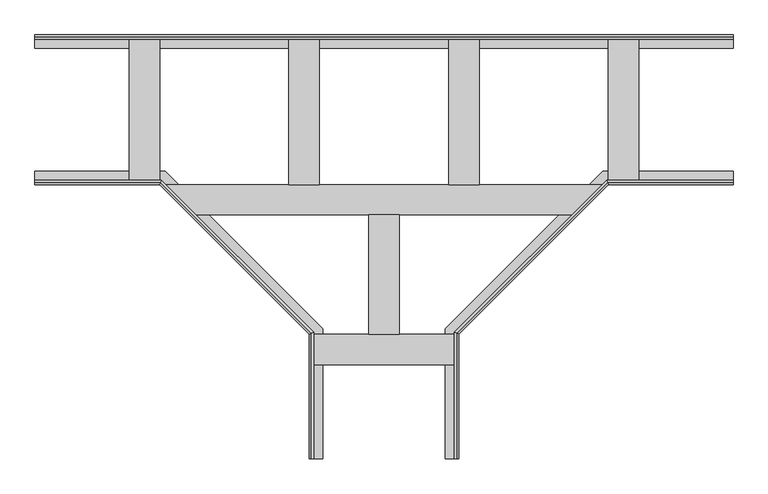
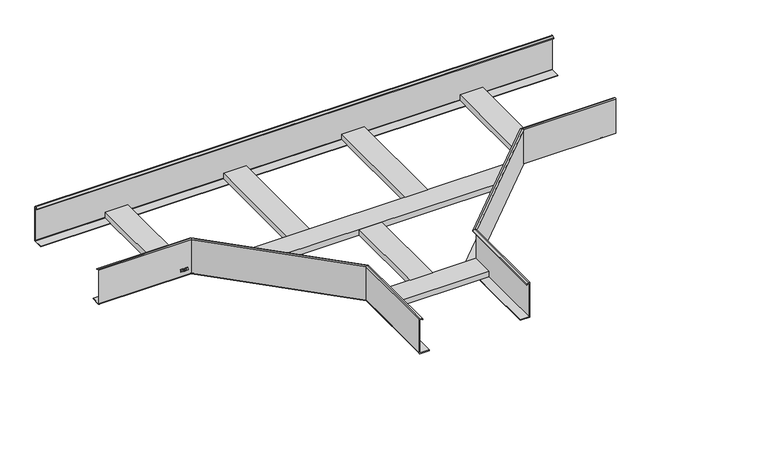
"""IFC4 building model written with IfcOpenShell, lengths in millimetres: cable carrier fitting geometry, КМ Профиль L Т-отвод «Быстрый монтаж» : Т-отвод «Быстрый монтаж»."""

from ifc_helpers import new_model, si_unit, point, frame, frame_2d, origin, place, context, project, spatial, polyline, circle_curve, ellipse_curve, trimmed, segment, composite_curve, outline, extrude, source, transform, mapped, element, save
from ifc_brep_helpers import plane_surface, cylinder_surface, revolved_surface, advanced_brep


def cable_carrier_fitting_1c77c83f(model_context):
    return source(origin(), model_context, "Body", "SolidModel", [
        extrude(outline(polyline([(-26.986157, -479.2388781), (-34.737421, -479.2388781), (-34.737421, -475.6630512), (-31.5720802, -475.6630512), (-34.737421, -473.9588467), (-34.737421, -470.0604353), (-31.194034, -471.9277444), (-30.5086619, -474.1694955), (-26.986157, -471.703011), (-26.986157, -473.8289757), (-30.564509, -475.7316192), (-26.986157, -475.7316192), (-26.986157, -479.2388781)])), frame((0.0, -150.8, 0.0), z_axis=(0.0, 1.0, 0.0), x_axis=(0.0, 0.0, 1.0)), (0.0, 0.0, 1.0), 0.8),
        extrude(outline(polyline([(-34.737421, -467.9962759), (-30.0696135, -467.6126012), (-34.7434681, -466.2045824), (-34.7434681, -464.7300717), (-30.0541919, -463.2500032), (-34.7429915, -462.7725105), (-34.7429915, -458.8700699), (-26.9623682, -460.0615674), (-26.9623682, -463.2555223), (-30.0390232, -464.2768297), (-26.9647569, -465.0433304), (-26.9647569, -468.0740589), (-34.737421, -469.8943395), (-34.737421, -467.9962759)])), frame((0.0, -150.8, 0.0), z_axis=(0.0, 1.0, 0.0), x_axis=(0.0, 0.0, 1.0)), (0.0, 0.0, 1.0), 0.8),
        extrude(outline(polyline([(-450.0, -147.0), (-511.0, -147.0), (-511.0, 147.0), (-450.0, 147.0), (-450.0, -147.0)])), frame((0.0, 0.0, -48.5), z_axis=(0.0, 0.0, 1.0), x_axis=(1.0, 0.0, 0.0)), (0.0, 0.0, 1.0), 16.0),
        extrude(outline(polyline([(511.0, -147.0), (450.0, -147.0), (450.0, 147.0), (511.0, 147.0), (511.0, -147.0)])), frame((0.0, 0.0, -48.5), z_axis=(0.0, 0.0, 1.0), x_axis=(1.0, 0.0, 0.0)), (0.0, 0.0, 1.0), 16.0),
        extrude(outline(polyline([(-129.6666667, 147.0), (-129.6666667, -150.0), (-190.6666667, -150.0), (-190.6666667, 147.0), (-129.6666667, 147.0)])), frame((0.0, 0.0, -48.5), z_axis=(0.0, 0.0, 1.0), x_axis=(1.0, 0.0, 0.0)), (0.0, 0.0, 1.0), 16.0),
        extrude(outline(polyline([(129.6666667, -150.0), (129.6666667, 147.0), (190.6666667, 147.0), (190.6666667, -150.0), (129.6666667, -150.0)])), frame((0.0, 0.0, -48.5), z_axis=(0.0, 0.0, 1.0), x_axis=(1.0, 0.0, 0.0)), (0.0, 0.0, 1.0), 16.0),
        extrude(outline(polyline([(30.5, -211.0), (30.5, -450.0), (-30.5, -450.0), (-30.5, -211.0), (30.5, -211.0)])), frame((0.0, 0.0, -48.5), z_axis=(0.0, 0.0, 1.0), x_axis=(1.0, 0.0, 0.0)), (0.0, 0.0, 1.0), 16.0),
        extrude(outline(polyline([(-147.0, -450.0), (147.0, -450.0), (147.0, -511.0), (-147.0, -511.0), (-147.0, -450.0)])), frame((0.0, 0.0, -48.5), z_axis=(0.0, 0.0, 1.0), x_axis=(1.0, 0.0, 0.0)), (0.0, 0.0, 1.0), 16.0),
        extrude(outline(polyline([(381.9289322, -211.0), (-381.9289322, -211.0), (-442.9289322, -150.0), (442.9289322, -150.0), (381.9289322, -211.0)])), frame((0.0, 0.0, -48.5), z_axis=(0.0, 0.0, 1.0), x_axis=(1.0, 0.0, 0.0)), (0.0, 0.0, 1.0), 16.0),
        extrude(outline(composite_curve([segment(trimmed(circle_curve(frame_2d((147.5, -47.5)), 1.0), [point((147.5, -48.5))], [point((148.5, -47.5))], True, "CARTESIAN"), True, "CONTINUOUS"), segment(polyline([(148.5, -47.5), (148.5, 47.3007162)]), True, "CONTINUOUS"), segment(trimmed(circle_curve(frame_2d((147.5, 47.3007162)), 1.0), [point((148.5, 47.3007162))], [point((147.0305284, 48.1836637))], True, "CARTESIAN"), True, "CONTINUOUS"), segment(polyline([(147.0305284, 48.1836637), (141.0, 44.9771749), (141.0, 46.67603), (146.7671626, 49.7424847)]), True, "CONTINUOUS"), segment(trimmed(circle_curve(frame_2d((147.8, 47.8)), 2.2), [point((146.7671626, 49.7424847))], [point((150.0, 47.8))], False, "CARTESIAN"), True, "CONTINUOUS"), segment(polyline([(150.0, 47.8), (150.0, -47.8)]), True, "CONTINUOUS"), segment(trimmed(circle_curve(frame_2d((147.8, -47.8)), 2.2), [point((150.0, -47.8))], [point((147.8, -50.0))], False, "CARTESIAN"), True, "CONTINUOUS"), segment(polyline([(147.8, -50.0), (123.0, -50.0), (123.0, -48.5), (147.5, -48.5)]), True, "CONTINUOUS")], self_intersect=False)), frame((-700.0, 0.0, 0.0), z_axis=(1.0, 0.0, 0.0), x_axis=(0.0, 1.0, 0.0)), (0.0, 0.0, 1.0), 1400.0),
        advanced_brep(
        [(123.0, -700.0, -50.0), (150.0, -700.0, -50.0), (150.0, -700.0, 47.8), (146.7671626, -700.0, 49.7424847), (141.0, -700.0, 46.67603), (141.0, -700.0, 44.9771749), (147.0305284, -700.0, 48.1836637), (148.5, -700.0, 47.3007162), (148.5, -700.0, -48.5), (123.0, -700.0, -48.5), (123.0, -438.8162338, -50.0), (438.8162338, -123.0, -50.0), (700.0, -123.0, -50.0), (700.0, -150.0, -50.0), (450.0, -150.0, -50.0), (150.0, -450.0, -50.0), (150.0, -450.0, 47.8), (146.7671626, -448.6609149, 49.7424847), (141.0, -446.2720779, 46.67603), (141.0, -446.2720779, 44.9771749), (147.0305284, -448.7700046, 48.1836637), (148.5, -449.3786797, 47.3007162), (148.5, -449.3786797, -48.5), (449.3786797, -148.5, -48.5), (700.0, -148.5, -48.5), (700.0, -123.0, -48.5), (438.8162338, -123.0, -48.5), (123.0, -438.8162338, -48.5), (450.0, -150.0, 47.8), (448.6609149, -146.7671626, 49.7424847), (446.2720779, -141.0, 46.67603), (446.2720779, -141.0, 44.9771749), (448.7700046, -147.0305284, 48.1836637), (449.3786797, -148.5, 47.3007162), (700.0, -148.5, 47.3007162), (700.0, -147.0305284, 48.1836637), (700.0, -141.0, 44.9771749), (700.0, -141.0, 46.67603), (700.0, -146.7671626, 49.7424847), (700.0, -150.0, 47.8)],
        [
            (0, 1),
            (1, 2),
            (2, 3, circle_curve(frame((147.8, -700.0, 47.8), z_axis=(0.0, -1.0, 0.0), x_axis=(-1.0, 0.0, 0.0)), 2.2)),
            (3, 4),
            (4, 5),
            (5, 6),
            (6, 7, circle_curve(frame((147.5, -700.0, 47.3007162), z_axis=(0.0, 1.0, 0.0), x_axis=(-1.0, 0.0, 0.0)), 1.0)),
            (7, 8),
            (8, 9),
            (9, 0),
            (0, 10),
            (10, 11),
            (11, 12),
            (12, 13),
            (13, 14),
            (14, 15),
            (15, 1),
            (15, 16),
            (16, 2),
            (16, 17, ellipse_curve(frame((147.8, -449.0887302, 47.8), z_axis=(-0.3826834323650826, -0.9238795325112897, 0.0), x_axis=(0.9238795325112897, -0.3826834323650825, 0.0)), 2.3812628, 2.2)),
            (17, 3),
            (17, 18),
            (18, 4),
            (18, 19),
            (19, 5),
            (19, 20),
            (20, 6),
            (20, 21, ellipse_curve(frame((147.5, -448.9644661, 47.3007162), z_axis=(0.3826834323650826, 0.9238795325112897, 0.0), x_axis=(-0.9238795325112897, 0.3826834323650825, 0.0)), 1.0823922, 1.0)),
            (21, 7),
            (21, 22),
            (22, 8),
            (22, 23),
            (23, 24),
            (24, 25),
            (25, 26),
            (26, 27),
            (27, 9),
            (27, 10),
            (14, 28),
            (28, 16),
            (28, 29, ellipse_curve(frame((449.0887302, -147.8, 47.8), z_axis=(-0.923879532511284, -0.382683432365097, 0.0), x_axis=(0.38268343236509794, -0.9238795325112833, 0.0)), 2.3812628, 2.2)),
            (29, 17),
            (29, 30),
            (30, 18),
            (30, 31),
            (31, 19),
            (31, 32),
            (32, 20),
            (32, 33, ellipse_curve(frame((448.9644661, -147.5, 47.3007162), z_axis=(0.923879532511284, 0.382683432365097, 0.0), x_axis=(-0.38268343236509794, 0.9238795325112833, 0.0)), 1.0823922, 1.0)),
            (33, 21),
            (33, 23),
            (26, 11),
            (12, 25),
            (24, 34),
            (34, 35, circle_curve(frame((700.0, -147.5, 47.3007162), z_axis=(-1.0, 0.0, 0.0), x_axis=(0.0, 1.0, 0.0)), 1.0)),
            (35, 36),
            (36, 37),
            (37, 38),
            (38, 39, circle_curve(frame((700.0, -147.8, 47.8), z_axis=(1.0, 0.0, 0.0), x_axis=(0.0, 1.0, 0.0)), 2.2)),
            (39, 13),
            (39, 28),
            (38, 29),
            (37, 30),
            (36, 31),
            (35, 32),
            (34, 33),
        ],
        [
            plane_surface(frame((150.0, -700.0, 50.0), z_axis=(0.0, -1.0, 0.0), x_axis=(0.0, 0.0, 1.0))),
            plane_surface(frame((123.0, -700.0, -50.0), z_axis=(0.0, 0.0, -1.0), x_axis=(0.0, 1.0, 0.0))),
            plane_surface(frame((150.0, -700.0, -50.0), z_axis=(1.0, 0.0, 0.0), x_axis=(0.0, 1.0, 0.0))),
            cylinder_surface(frame((147.8, -700.0, 47.8), z_axis=(0.0, -1.0, 0.0), x_axis=(-1.0, 0.0, 0.0)), 2.2),
            plane_surface(frame((146.7671626, -700.0, 49.7424847), z_axis=(-0.4694715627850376, 0.0, 0.8829475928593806), x_axis=(0.0, 1.0, 0.0))),
            plane_surface(frame((141.0, -700.0, 46.67603), z_axis=(-1.0, 0.0, 0.0), x_axis=(0.0, 1.0, 0.0))),
            plane_surface(frame((141.0, -700.0, 44.9771749), z_axis=(0.4694715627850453, 0.0, -0.8829475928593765), x_axis=(0.0, 1.0, 0.0))),
            revolved_surface(polyline([(146.5, -448.5502525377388, 47.3007162), (146.5, -700.0, 47.3007162)]), (147.5, -700.0, 47.3007162), (0.0, 1.0, 0.0)),
            plane_surface(frame((148.5, -700.0, 47.3007162), z_axis=(-1.0, 0.0, 0.0), x_axis=(0.0, 1.0, 0.0))),
            plane_surface(frame((148.5, -700.0, -48.5), z_axis=(0.0, 0.0, 1.0), x_axis=(0.0, 1.0, 0.0))),
            plane_surface(frame((123.0, -700.0, -48.5), z_axis=(-1.0, 0.0, 0.0), x_axis=(0.0, 1.0, 0.0))),
            plane_surface(frame((150.0, -450.0, -50.0), z_axis=(0.7071067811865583, -0.7071067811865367, 0.0), x_axis=(0.7071067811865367, 0.7071067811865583, 0.0))),
            cylinder_surface(frame((148.4443651, -448.4443651, 47.8), z_axis=(-0.7071067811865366, -0.7071067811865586, 0.0), x_axis=(-0.7071067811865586, 0.7071067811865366, 0.0)), 2.2),
            plane_surface(frame((146.7671626, -448.6609149, 49.7424847), z_axis=(-0.33196652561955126, 0.3319665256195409, 0.8829475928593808), x_axis=(0.7071067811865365, 0.7071067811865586, 0.0))),
            plane_surface(frame((141.0, -446.2720779, 46.67603), z_axis=(-0.7071067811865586, 0.7071067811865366, 0.0), x_axis=(0.7071067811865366, 0.7071067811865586, 0.0))),
            plane_surface(frame((141.0, -446.2720779, 44.9771749), z_axis=(0.33196652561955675, -0.3319665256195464, -0.8829475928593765), x_axis=(0.7071067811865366, 0.7071067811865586, 0.0))),
            revolved_surface(polyline([(448.5502524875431, -146.49999995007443, 47.3007162), (146.49999995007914, -448.55025248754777, 47.3007162)]), (148.232233, -448.232233, 47.3007162), (0.7071067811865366, 0.7071067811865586, 0.0)),
            plane_surface(frame((148.5, -449.3786797, 47.3007162), z_axis=(-0.7071067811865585, 0.7071067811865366, 0.0), x_axis=(0.7071067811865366, 0.7071067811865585, 0.0))),
            plane_surface(frame((123.0, -438.8162338, -48.5), z_axis=(-0.7071067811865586, 0.7071067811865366, 0.0), x_axis=(0.7071067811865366, 0.7071067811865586, 0.0))),
            plane_surface(frame((700.0, -150.0, 50.0), z_axis=(1.0, 0.0, 0.0), x_axis=(0.0, 0.0, 1.0))),
            plane_surface(frame((450.0, -150.0, -50.0), z_axis=(0.0, -1.0, 0.0), x_axis=(1.0, 0.0, 0.0))),
            cylinder_surface(frame((450.0, -147.8, 47.8), z_axis=(-1.0, 0.0, 0.0), x_axis=(0.0, 1.0, 0.0)), 2.2),
            plane_surface(frame((448.6609149, -146.7671626, 49.7424847), z_axis=(0.0, 0.46947156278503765, 0.8829475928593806), x_axis=(1.0, 0.0, 0.0))),
            plane_surface(frame((446.2720779, -141.0, 46.67603), z_axis=(0.0, 1.0, 0.0), x_axis=(1.0, 0.0, 0.0))),
            plane_surface(frame((446.2720779, -141.0, 44.9771749), z_axis=(0.0, -0.4694715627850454, -0.8829475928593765), x_axis=(1.0, 0.0, 0.0))),
            revolved_surface(polyline([(700.0, -146.5, 47.3007162), (448.5502525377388, -146.5, 47.3007162)]), (450.0, -147.5, 47.3007162), (1.0, 0.0, 0.0)),
            plane_surface(frame((449.3786797, -148.5, 47.3007162), z_axis=(0.0, 1.0, 0.0), x_axis=(1.0, 0.0, 0.0))),
            plane_surface(frame((438.8162338, -123.0, -48.5), z_axis=(0.0, 1.0, 0.0), x_axis=(1.0, 0.0, 0.0))),
        ],
        [
            (0, [[1, 2, 3, 4, 5, 6, 7, 8, 9, 10]]),
            (1, [[-1, 11, 12, 13, 14, 15, 16, 17]]),
            (2, [[-2, -17, 18, 19]]),
            (3, [[-3, -19, 20, 21]]),
            (4, [[-4, -21, 22, 23]]),
            (5, [[-5, -23, 24, 25]]),
            (6, [[-6, -25, 26, 27]]),
            (7, [[-7, -27, 28, 29]]),
            (8, [[-8, -29, 30, 31]]),
            (9, [[-9, -31, 32, 33, 34, 35, 36, 37]]),
            (10, [[-10, -37, 38, -11]]),
            (11, [[-18, -16, 39, 40]]),
            (12, [[-20, -40, 41, 42]]),
            (13, [[-22, -42, 43, 44]]),
            (14, [[-24, -44, 45, 46]]),
            (15, [[-26, -46, 47, 48]]),
            (16, [[-28, -48, 49, 50]]),
            (17, [[-30, -50, 51, -32]]),
            (18, [[-38, -36, 52, -12]]),
            (19, [[53, -34, 54, 55, 56, 57, 58, 59, 60, -14]]),
            (20, [[-39, -15, -60, 61]]),
            (21, [[-41, -61, -59, 62]]),
            (22, [[-43, -62, -58, 63]]),
            (23, [[-45, -63, -57, 64]]),
            (24, [[-47, -64, -56, 65]]),
            (25, [[-49, -65, -55, 66]]),
            (26, [[-51, -66, -54, -33]]),
            (27, [[-52, -35, -53, -13]]),
        ],
    ),
        advanced_brep(
        [(-700.0, -123.0, -48.5), (-700.0, -123.0, -50.0), (-700.0, -147.8, -50.0), (-700.0, -150.0, -47.8), (-700.0, -150.0, 47.8), (-700.0, -146.7671626, 49.7424847), (-700.0, -141.0, 46.67603), (-700.0, -141.0, 44.9771749), (-700.0, -147.0305284, 48.1836637), (-700.0, -148.5, 47.3007162), (-700.0, -148.5, -47.5), (-700.0, -147.5, -48.5), (-438.8162338, -123.0, -48.5), (-438.8162338, -123.0, -50.0), (-123.0, -438.8162338, -50.0), (-123.0, -700.0, -50.0), (-147.8, -700.0, -50.0), (-147.8, -449.0887302, -50.0), (-449.0887302, -147.8, -50.0), (-450.0, -150.0, -47.8), (-450.0, -150.0, 47.8), (-449.3786797, -148.5, 47.3007162), (-449.3786797, -148.5, -47.5), (-448.9644661, -147.5, -48.5), (-147.5, -448.9644661, -48.5), (-147.5, -700.0, -48.5), (-123.0, -700.0, -48.5), (-123.0, -438.8162338, -48.5), (-150.0, -450.0, -47.8), (-150.0, -450.0, 47.8), (-148.5, -449.3786797, 47.3007162), (-148.5, -449.3786797, -47.5), (-148.5, -700.0, -47.5), (-148.5, -700.0, 47.3007162), (-147.0305284, -700.0, 48.1836637), (-141.0, -700.0, 44.9771749), (-141.0, -700.0, 46.67603), (-146.7671626, -700.0, 49.7424847), (-150.0, -700.0, 47.8), (-150.0, -700.0, -47.8), (-448.6609149, -146.7671626, 49.7424847), (-446.2720779, -141.0, 46.67603), (-446.2720779, -141.0, 44.9771749), (-448.7700046, -147.0305284, 48.1836637), (-146.7671626, -448.6609149, 49.7424847), (-141.0, -446.2720779, 46.67603), (-141.0, -446.2720779, 44.9771749), (-147.0305284, -448.7700046, 48.1836637)],
        [
            (0, 1),
            (1, 2),
            (2, 3, circle_curve(frame((-700.0, -147.8, -47.8), z_axis=(-1.0, 0.0, 0.0), x_axis=(0.0, 1.0, 0.0)), 2.2)),
            (3, 4),
            (4, 5, circle_curve(frame((-700.0, -147.8, 47.8), z_axis=(-1.0, 0.0, 0.0), x_axis=(0.0, 1.0, 0.0)), 2.2)),
            (5, 6),
            (6, 7),
            (7, 8),
            (8, 9, circle_curve(frame((-700.0, -147.5, 47.3007162), z_axis=(1.0, 0.0, 0.0), x_axis=(0.0, 1.0, 0.0)), 1.0)),
            (9, 10),
            (10, 11, circle_curve(frame((-700.0, -147.5, -47.5), z_axis=(1.0, 0.0, 0.0), x_axis=(0.0, 1.0, 0.0)), 1.0)),
            (11, 0),
            (0, 12),
            (12, 13),
            (13, 1),
            (13, 14),
            (14, 15),
            (15, 16),
            (16, 17),
            (17, 18),
            (18, 2),
            (18, 19, ellipse_curve(frame((-449.0887302, -147.8, -47.8), z_axis=(-0.9238795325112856, 0.38268343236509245, 0.0), x_axis=(-0.3826834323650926, -0.9238795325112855, 0.0)), 2.3812628, 2.2)),
            (19, 3),
            (19, 20),
            (20, 4),
            (9, 21),
            (21, 22),
            (22, 10),
            (22, 23, ellipse_curve(frame((-448.9644661, -147.5, -47.5), z_axis=(0.9238795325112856, -0.38268343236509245, 0.0), x_axis=(0.3826834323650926, 0.9238795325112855, 0.0)), 1.0823922, 1.0)),
            (23, 11),
            (23, 24),
            (24, 25),
            (25, 26),
            (26, 27),
            (27, 12),
            (27, 14),
            (17, 28, ellipse_curve(frame((-147.8, -449.0887302, -47.8), z_axis=(-0.3826834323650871, 0.9238795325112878, 0.0), x_axis=(-0.9238795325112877, -0.38268343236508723, 0.0)), 2.3812628, 2.2)),
            (28, 19),
            (28, 29),
            (29, 20),
            (21, 30),
            (30, 31),
            (31, 22),
            (31, 24, ellipse_curve(frame((-147.5, -448.9644661, -47.5), z_axis=(0.3826834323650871, -0.9238795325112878, 0.0), x_axis=(0.9238795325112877, 0.38268343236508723, 0.0)), 1.0823922, 1.0)),
            (25, 32, circle_curve(frame((-147.5, -700.0, -47.5), z_axis=(0.0, 1.0, 0.0), x_axis=(1.0, 0.0, 0.0)), 1.0)),
            (32, 33),
            (33, 34, circle_curve(frame((-147.5, -700.0, 47.3007162), z_axis=(0.0, 1.0, 0.0), x_axis=(1.0, 0.0, 0.0)), 1.0)),
            (34, 35),
            (35, 36),
            (36, 37),
            (37, 38, circle_curve(frame((-147.8, -700.0, 47.8), z_axis=(0.0, -1.0, 0.0), x_axis=(1.0, 0.0, 0.0)), 2.2)),
            (38, 39),
            (39, 16, circle_curve(frame((-147.8, -700.0, -47.8), z_axis=(0.0, -1.0, 0.0), x_axis=(1.0, 0.0, 0.0)), 2.2)),
            (15, 26),
            (39, 28),
            (38, 29),
            (30, 33),
            (32, 31),
            (20, 40, ellipse_curve(frame((-449.0887302, -147.8, 47.8), z_axis=(-0.9238795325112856, 0.38268343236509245, 0.0), x_axis=(-0.3826834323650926, -0.9238795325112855, 0.0)), 2.3812628, 2.2)),
            (40, 5),
            (40, 41),
            (41, 6),
            (41, 42),
            (42, 7),
            (42, 43),
            (43, 8),
            (43, 21, ellipse_curve(frame((-448.9644661, -147.5, 47.3007162), z_axis=(0.9238795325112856, -0.38268343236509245, 0.0), x_axis=(0.3826834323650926, 0.9238795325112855, 0.0)), 1.0823922, 1.0)),
            (29, 44, ellipse_curve(frame((-147.8, -449.0887302, 47.8), z_axis=(-0.3826834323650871, 0.9238795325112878, 0.0), x_axis=(-0.9238795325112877, -0.38268343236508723, 0.0)), 2.3812628, 2.2)),
            (44, 40),
            (44, 45),
            (45, 41),
            (45, 46),
            (46, 42),
            (46, 47),
            (47, 43),
            (47, 30, ellipse_curve(frame((-147.5, -448.9644661, 47.3007162), z_axis=(0.3826834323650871, -0.9238795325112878, 0.0), x_axis=(0.9238795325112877, 0.38268343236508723, 0.0)), 1.0823922, 1.0)),
            (37, 44),
            (36, 45),
            (35, 46),
            (34, 47),
        ],
        [
            plane_surface(frame((-700.0, -150.0, 50.0), z_axis=(-1.0, 0.0, 0.0), x_axis=(0.0, 0.0, 1.0))),
            plane_surface(frame((-700.0, -123.0, -48.5), z_axis=(0.0, 1.0, 0.0), x_axis=(1.0, 0.0, 0.0))),
            plane_surface(frame((-700.0, -123.0, -50.0), z_axis=(0.0, 0.0, -1.0), x_axis=(1.0, 0.0, 0.0))),
            cylinder_surface(frame((-700.0, -147.8, -47.8), z_axis=(-1.0, 0.0, 0.0), x_axis=(0.0, 1.0, 0.0)), 2.2),
            plane_surface(frame((-700.0, -150.0, -47.8), z_axis=(0.0, -1.0, 0.0), x_axis=(1.0, 0.0, 0.0))),
            plane_surface(frame((-700.0, -148.5, 47.3007162), z_axis=(0.0, 1.0, 0.0), x_axis=(1.0, 0.0, 0.0))),
            revolved_surface(polyline([(-448.55025253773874, -146.5, -47.5), (-700.0, -146.5, -47.5)]), (-700.0, -147.5, -47.5), (1.0, 0.0, 0.0)),
            plane_surface(frame((-700.0, -147.5, -48.5), z_axis=(0.0, 0.0, 1.0), x_axis=(1.0, 0.0, 0.0))),
            plane_surface(frame((-438.8162338, -123.0, -48.5), z_axis=(0.7071067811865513, 0.7071067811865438, 0.0), x_axis=(0.7071067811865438, -0.7071067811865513, 0.0))),
            cylinder_surface(frame((-448.4443651, -148.4443651, -47.8), z_axis=(-0.7071067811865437, 0.7071067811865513, 0.0), x_axis=(0.7071067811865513, 0.7071067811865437, 0.0)), 2.2),
            plane_surface(frame((-450.0, -150.0, -47.8), z_axis=(-0.7071067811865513, -0.7071067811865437, 0.0), x_axis=(0.7071067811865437, -0.7071067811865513, 0.0))),
            plane_surface(frame((-449.3786797, -148.5, 47.3007162), z_axis=(0.7071067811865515, 0.7071067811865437, 0.0), x_axis=(0.7071067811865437, -0.7071067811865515, 0.0))),
            revolved_surface(polyline([(-146.4999999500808, -448.5502524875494, -47.5), (-448.55025248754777, -146.49999995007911, -47.5)]), (-448.232233, -148.232233, -47.5), (0.7071067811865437, -0.7071067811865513, 0.0)),
            plane_surface(frame((-150.0, -700.0, 50.0), z_axis=(0.0, -1.0, 0.0), x_axis=(0.0, 0.0, 1.0))),
            plane_surface(frame((-123.0, -438.8162338, -48.5), z_axis=(1.0, 0.0, 0.0), x_axis=(0.0, -1.0, 0.0))),
            cylinder_surface(frame((-147.8, -450.0, -47.8), z_axis=(0.0, 1.0, 0.0), x_axis=(1.0, 0.0, 0.0)), 2.2),
            plane_surface(frame((-150.0, -450.0, -47.8), z_axis=(-1.0, 0.0, 0.0), x_axis=(0.0, -1.0, 0.0))),
            plane_surface(frame((-148.5, -449.3786797, 47.3007162), z_axis=(1.0, 0.0, 0.0), x_axis=(0.0, -1.0, 0.0))),
            revolved_surface(polyline([(-146.5, -700.0, -47.5), (-146.5, -448.5502525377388, -47.5)]), (-147.5, -450.0, -47.5), (0.0, -1.0, 0.0)),
            cylinder_surface(frame((-700.0, -147.8, 47.8), z_axis=(-1.0, 0.0, 0.0), x_axis=(0.0, 1.0, 0.0)), 2.2),
            plane_surface(frame((-700.0, -146.7671626, 49.7424847), z_axis=(0.0, 0.4694715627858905, 0.8829475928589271), x_axis=(1.0, 0.0, 0.0))),
            plane_surface(frame((-700.0, -141.0, 46.67603), z_axis=(0.0, 1.0, 0.0), x_axis=(1.0, 0.0, 0.0))),
            plane_surface(frame((-700.0, -141.0, 44.9771749), z_axis=(0.0, -0.46947156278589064, -0.882947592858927), x_axis=(1.0, 0.0, 0.0))),
            revolved_surface(polyline([(-448.55025253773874, -146.5, 47.3007162), (-700.0, -146.5, 47.3007162)]), (-700.0, -147.5, 47.3007162), (1.0, 0.0, 0.0)),
            cylinder_surface(frame((-448.4443651, -148.4443651, 47.8), z_axis=(-0.7071067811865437, 0.7071067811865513, 0.0), x_axis=(0.7071067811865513, 0.7071067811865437, 0.0)), 2.2),
            plane_surface(frame((-448.6609149, -146.7671626, 49.7424847), z_axis=(0.3319665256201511, 0.33196652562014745, 0.8829475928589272), x_axis=(0.7071067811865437, -0.7071067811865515, 0.0))),
            plane_surface(frame((-446.2720779, -141.0, 46.67603), z_axis=(0.7071067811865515, 0.7071067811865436, 0.0), x_axis=(0.7071067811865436, -0.7071067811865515, 0.0))),
            plane_surface(frame((-446.2720779, -141.0, 44.9771749), z_axis=(-0.33196652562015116, -0.33196652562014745, -0.8829475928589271), x_axis=(0.7071067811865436, -0.7071067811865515, 0.0))),
            revolved_surface(polyline([(-146.4999999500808, -448.5502524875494, 47.3007162), (-448.55025248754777, -146.49999995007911, 47.3007162)]), (-448.232233, -148.232233, 47.3007162), (0.7071067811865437, -0.7071067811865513, 0.0)),
            cylinder_surface(frame((-147.8, -450.0, 47.8), z_axis=(0.0, 1.0, 0.0), x_axis=(1.0, 0.0, 0.0)), 2.2),
            plane_surface(frame((-146.7671626, -448.6609149, 49.7424847), z_axis=(0.4694715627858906, 0.0, 0.8829475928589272), x_axis=(0.0, -1.0, 0.0))),
            plane_surface(frame((-141.0, -446.2720779, 46.67603), z_axis=(1.0, 0.0, 0.0), x_axis=(0.0, -1.0, 0.0))),
            plane_surface(frame((-141.0, -446.2720779, 44.9771749), z_axis=(-0.4694715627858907, 0.0, -0.8829475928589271), x_axis=(0.0, -1.0, 0.0))),
            revolved_surface(polyline([(-146.5, -700.0, 47.3007162), (-146.5, -448.5502525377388, 47.3007162)]), (-147.5, -450.0, 47.3007162), (0.0, -1.0, 0.0)),
        ],
        [
            (0, [[1, 2, 3, 4, 5, 6, 7, 8, 9, 10, 11, 12]]),
            (1, [[-1, 13, 14, 15]]),
            (2, [[-2, -15, 16, 17, 18, 19, 20, 21]]),
            (3, [[-3, -21, 22, 23]]),
            (4, [[-4, -23, 24, 25]]),
            (5, [[-10, 26, 27, 28]]),
            (6, [[-11, -28, 29, 30]]),
            (7, [[-12, -30, 31, 32, 33, 34, 35, -13]]),
            (8, [[-14, -35, 36, -16]]),
            (9, [[-22, -20, 37, 38]]),
            (10, [[-24, -38, 39, 40]]),
            (11, [[-27, 41, 42, 43]]),
            (12, [[-29, -43, 44, -31]]),
            (13, [[-33, 45, 46, 47, 48, 49, 50, 51, 52, 53, -18, 54]]),
            (14, [[-36, -34, -54, -17]]),
            (15, [[-37, -19, -53, 55]]),
            (16, [[-39, -55, -52, 56]]),
            (17, [[-42, 57, -46, 58]]),
            (18, [[-44, -58, -45, -32]]),
            (19, [[-5, -25, 59, 60]]),
            (20, [[-6, -60, 61, 62]]),
            (21, [[-7, -62, 63, 64]]),
            (22, [[-8, -64, 65, 66]]),
            (23, [[-9, -66, 67, -26]]),
            (24, [[-59, -40, 68, 69]]),
            (25, [[-61, -69, 70, 71]]),
            (26, [[-63, -71, 72, 73]]),
            (27, [[-65, -73, 74, 75]]),
            (28, [[-67, -75, 76, -41]]),
            (29, [[-68, -56, -51, 77]]),
            (30, [[-70, -77, -50, 78]]),
            (31, [[-72, -78, -49, 79]]),
            (32, [[-74, -79, -48, 80]]),
            (33, [[-76, -80, -47, -57]]),
        ],
    ),
    ])


if __name__ == "__main__":
    model = new_model("IFC4")
    model_context = context("Model", 3, world=origin())
    ifc_project = project(units=[si_unit("LENGTHUNIT", "METRE", prefix="MILLI")], contexts=[model_context])
    site = spatial("IfcSite", under=ifc_project)
    building = spatial("IfcBuilding", under=site)
    placement = place(None, origin())
    cable_carrier_fitting_shape = cable_carrier_fitting_1c77c83f(model_context)
    element("IfcCableCarrierFitting", 1, ObjectType="КМ Профиль L Т-отвод «Быстрый монтаж» : Т-отвод «Быстрый монтаж»", at=placement, inside=building, context=model_context, shape_type="MappedRepresentation", body=[
        mapped(cable_carrier_fitting_shape, transform((0.0, 0.0, 0.0), x_axis=(1.0, 0.0, 0.0), y_axis=(0.0, 1.0, 0.0), z_axis=(0.0, 0.0, 1.0))),
    ])
    save(model, "model.ifc")
